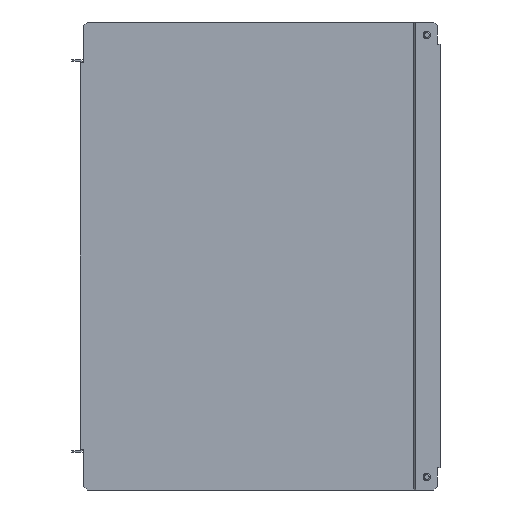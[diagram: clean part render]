
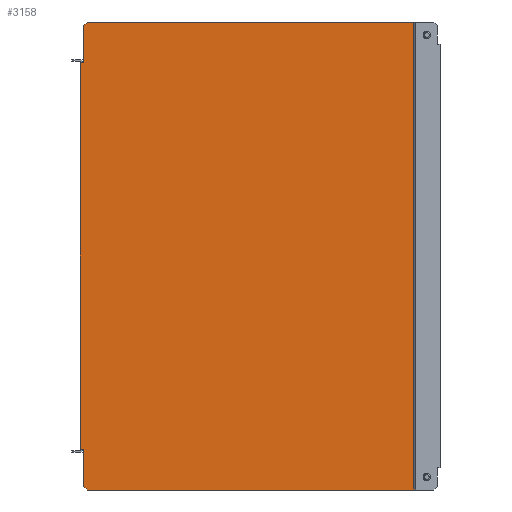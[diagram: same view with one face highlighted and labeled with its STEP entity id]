
A CAD part, front view. The second image highlights one B-rep face of the part: STEP entity #3158.
In plain terms, the highlighted planar face has unit normal (0, -1, 0).
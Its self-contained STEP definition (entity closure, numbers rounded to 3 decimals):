
#6 = VECTOR ( 'NONE', #3909, 1000. ) ;
#34 = VECTOR ( 'NONE', #4078, 1000. ) ;
#40 = EDGE_CURVE ( 'NONE', #3268, #1009, #193, .T. ) ;
#62 = EDGE_CURVE ( 'NONE', #580, #3675, #3199, .T. ) ;
#63 = DIRECTION ( 'NONE',  ( -1., 0., 0. ) ) ;
#81 = DIRECTION ( 'NONE',  ( -1., 0., 0. ) ) ;
#87 = DIRECTION ( 'NONE',  ( 0., -1., 0. ) ) ;
#193 = LINE ( 'NONE', #2796, #583 ) ;
#258 = EDGE_CURVE ( 'NONE', #1009, #1643, #3264, .T. ) ;
#441 = CARTESIAN_POINT ( 'NONE',  ( -20.925, 1.5, -198.5 ) ) ;
#458 = ORIENTED_EDGE ( 'NONE', *, *, #906, .T. ) ;
#480 = VECTOR ( 'NONE', #2695, 1000. ) ;
#533 = ORIENTED_EDGE ( 'NONE', *, *, #816, .F. ) ;
#551 = CARTESIAN_POINT ( 'NONE',  ( -300.8, 1.5, -164. ) ) ;
#580 = VERTEX_POINT ( 'NONE', #1682 ) ;
#583 = VECTOR ( 'NONE', #2266, 1000. ) ;
#610 = CARTESIAN_POINT ( 'NONE',  ( -300.5, 1.5, 198.5 ) ) ;
#623 = AXIS2_PLACEMENT_3D ( 'NONE', #676, #87, #63 ) ;
#629 = LINE ( 'NONE', #2587, #6 ) ;
#676 = CARTESIAN_POINT ( 'NONE',  ( 0., 1.5, 0. ) ) ;
#706 = EDGE_CURVE ( 'NONE', #1915, #3675, #3044, .T. ) ;
#765 = LINE ( 'NONE', #4028, #2826 ) ;
#775 = ORIENTED_EDGE ( 'NONE', *, *, #998, .T. ) ;
#779 = CARTESIAN_POINT ( 'NONE',  ( -300.8, 1.5, -164. ) ) ;
#816 = EDGE_CURVE ( 'NONE', #1915, #1855, #765, .T. ) ;
#856 = VECTOR ( 'NONE', #81, 1000. ) ;
#869 = VERTEX_POINT ( 'NONE', #551 ) ;
#906 = EDGE_CURVE ( 'NONE', #1643, #1702, #1189, .T. ) ;
#919 = ORIENTED_EDGE ( 'NONE', *, *, #1135, .T. ) ;
#998 = EDGE_CURVE ( 'NONE', #3358, #1422, #2598, .T. ) ;
#1009 = VERTEX_POINT ( 'NONE', #1061 ) ;
#1018 = FACE_OUTER_BOUND ( 'NONE', #2366, .T. ) ;
#1061 = CARTESIAN_POINT ( 'NONE',  ( -300.5, 1.5, -195.5 ) ) ;
#1075 = ORIENTED_EDGE ( 'NONE', *, *, #2460, .T. ) ;
#1082 = EDGE_CURVE ( 'NONE', #1422, #2483, #3959, .T. ) ;
#1095 = CARTESIAN_POINT ( 'NONE',  ( 0., 1.5, -164. ) ) ;
#1107 = DIRECTION ( 'NONE',  ( 1., 0., 0. ) ) ;
#1119 = LINE ( 'NONE', #441, #34 ) ;
#1135 = EDGE_CURVE ( 'NONE', #869, #3268, #1421, .T. ) ;
#1165 = CARTESIAN_POINT ( 'NONE',  ( -303.3, 1.5, 164. ) ) ;
#1189 = LINE ( 'NONE', #1851, #3241 ) ;
#1217 = EDGE_CURVE ( 'NONE', #1702, #1640, #1119, .T. ) ;
#1248 = CARTESIAN_POINT ( 'NONE',  ( -300.5, 1.5, 195.5 ) ) ;
#1261 = CARTESIAN_POINT ( 'NONE',  ( -297.5, 1.5, -198.5 ) ) ;
#1328 = VECTOR ( 'NONE', #2336, 1000. ) ;
#1394 = VECTOR ( 'NONE', #1667, 1000. ) ;
#1421 = LINE ( 'NONE', #779, #3229 ) ;
#1422 = VERTEX_POINT ( 'NONE', #1650 ) ;
#1502 = DIRECTION ( 'NONE',  ( 0., 0., -1. ) ) ;
#1520 = CARTESIAN_POINT ( 'NONE',  ( -20.511, 1.5, 198.5 ) ) ;
#1556 = ORIENTED_EDGE ( 'NONE', *, *, #1574, .F. ) ;
#1574 = EDGE_CURVE ( 'NONE', #869, #580, #2078, .T. ) ;
#1640 = VERTEX_POINT ( 'NONE', #1943 ) ;
#1643 = VERTEX_POINT ( 'NONE', #1261 ) ;
#1650 = CARTESIAN_POINT ( 'NONE',  ( -297.5, 1.5, 198.5 ) ) ;
#1667 = DIRECTION ( 'NONE',  ( 0.707, 0., -0.707 ) ) ;
#1682 = CARTESIAN_POINT ( 'NONE',  ( -303.3, 1.5, -164. ) ) ;
#1702 = VERTEX_POINT ( 'NONE', #3820 ) ;
#1744 = CARTESIAN_POINT ( 'NONE',  ( -300.8, 1.5, 164. ) ) ;
#1822 = EDGE_CURVE ( 'NONE', #3358, #2940, #2303, .T. ) ;
#1851 = CARTESIAN_POINT ( 'NONE',  ( -300.5, 1.5, -198.5 ) ) ;
#1855 = VERTEX_POINT ( 'NONE', #3025 ) ;
#1877 = ORIENTED_EDGE ( 'NONE', *, *, #2971, .T. ) ;
#1915 = VERTEX_POINT ( 'NONE', #1744 ) ;
#1943 = CARTESIAN_POINT ( 'NONE',  ( -20.511, 1.5, -198.5 ) ) ;
#2078 = LINE ( 'NONE', #1095, #480 ) ;
#2104 = ORIENTED_EDGE ( 'NONE', *, *, #40, .T. ) ;
#2173 = ORIENTED_EDGE ( 'NONE', *, *, #706, .T. ) ;
#2229 = LINE ( 'NONE', #610, #3412 ) ;
#2266 = DIRECTION ( 'NONE',  ( 0., 0., -1. ) ) ;
#2303 = LINE ( 'NONE', #3969, #3684 ) ;
#2308 = ORIENTED_EDGE ( 'NONE', *, *, #258, .T. ) ;
#2336 = DIRECTION ( 'NONE',  ( -0.707, 0., -0.707 ) ) ;
#2366 = EDGE_LOOP ( 'NONE', ( #775, #3521, #1075, #533, #2173, #3850, #1556, #919, #2104, #2308, #458, #3467, #1877, #3060 ) ) ;
#2405 = CARTESIAN_POINT ( 'NONE',  ( -300.5, 1.5, -164. ) ) ;
#2460 = EDGE_CURVE ( 'NONE', #2483, #1855, #2229, .T. ) ;
#2469 = CARTESIAN_POINT ( 'NONE',  ( -300.8, 1.5, 164. ) ) ;
#2483 = VERTEX_POINT ( 'NONE', #1248 ) ;
#2508 = CARTESIAN_POINT ( 'NONE',  ( -20.925, 1.5, 198.5 ) ) ;
#2519 = DIRECTION ( 'NONE',  ( 0., 0., 1. ) ) ;
#2553 = VECTOR ( 'NONE', #2519, 1000. ) ;
#2587 = CARTESIAN_POINT ( 'NONE',  ( -20.511, 1.5, 0. ) ) ;
#2598 = LINE ( 'NONE', #3275, #856 ) ;
#2611 = CARTESIAN_POINT ( 'NONE',  ( -303.3, 1.5, 0. ) ) ;
#2647 = CARTESIAN_POINT ( 'NONE',  ( -248., 1.5, -248. ) ) ;
#2695 = DIRECTION ( 'NONE',  ( -1., 0., 0. ) ) ;
#2796 = CARTESIAN_POINT ( 'NONE',  ( -300.5, 1.5, 198.5 ) ) ;
#2826 = VECTOR ( 'NONE', #1107, 1000. ) ;
#2940 = VERTEX_POINT ( 'NONE', #1520 ) ;
#2971 = EDGE_CURVE ( 'NONE', #1640, #2940, #629, .T. ) ;
#3004 = DIRECTION ( 'NONE',  ( 1., 0., 0. ) ) ;
#3025 = CARTESIAN_POINT ( 'NONE',  ( -300.5, 1.5, 164. ) ) ;
#3044 = LINE ( 'NONE', #2469, #4119 ) ;
#3059 = DIRECTION ( 'NONE',  ( -1., 0., 0. ) ) ;
#3060 = ORIENTED_EDGE ( 'NONE', *, *, #1822, .F. ) ;
#3158 = ADVANCED_FACE ( 'NONE', ( #1018 ), #3628, .T. ) ;
#3199 = LINE ( 'NONE', #2611, #2553 ) ;
#3229 = VECTOR ( 'NONE', #3421, 1000. ) ;
#3241 = VECTOR ( 'NONE', #3794, 1000. ) ;
#3264 = LINE ( 'NONE', #2647, #1394 ) ;
#3268 = VERTEX_POINT ( 'NONE', #2405 ) ;
#3275 = CARTESIAN_POINT ( 'NONE',  ( 0., 1.5, 198.5 ) ) ;
#3358 = VERTEX_POINT ( 'NONE', #2508 ) ;
#3412 = VECTOR ( 'NONE', #1502, 1000. ) ;
#3421 = DIRECTION ( 'NONE',  ( 1., 0., 0. ) ) ;
#3467 = ORIENTED_EDGE ( 'NONE', *, *, #1217, .T. ) ;
#3521 = ORIENTED_EDGE ( 'NONE', *, *, #1082, .T. ) ;
#3628 = PLANE ( 'NONE',  #623 ) ;
#3675 = VERTEX_POINT ( 'NONE', #1165 ) ;
#3684 = VECTOR ( 'NONE', #3004, 1000. ) ;
#3794 = DIRECTION ( 'NONE',  ( 1., 0., 0. ) ) ;
#3820 = CARTESIAN_POINT ( 'NONE',  ( -20.925, 1.5, -198.5 ) ) ;
#3850 = ORIENTED_EDGE ( 'NONE', *, *, #62, .F. ) ;
#3909 = DIRECTION ( 'NONE',  ( 0., 0., 1. ) ) ;
#3959 = LINE ( 'NONE', #3981, #1328 ) ;
#3969 = CARTESIAN_POINT ( 'NONE',  ( 0., 1.5, 198.5 ) ) ;
#3981 = CARTESIAN_POINT ( 'NONE',  ( -248., 1.5, 248. ) ) ;
#4028 = CARTESIAN_POINT ( 'NONE',  ( -300.8, 1.5, 164. ) ) ;
#4078 = DIRECTION ( 'NONE',  ( 1., 0., 0. ) ) ;
#4119 = VECTOR ( 'NONE', #3059, 1000. ) ;
